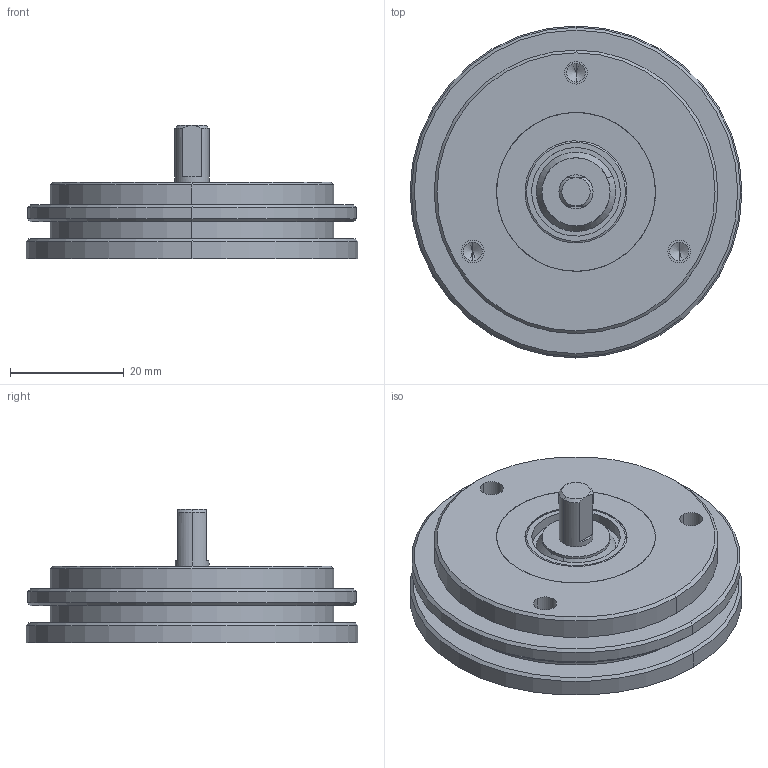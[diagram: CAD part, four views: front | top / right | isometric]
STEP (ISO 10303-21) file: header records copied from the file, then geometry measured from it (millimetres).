
FILE_DESCRIPTION (( 'STEP AP214' ), '1' );
FILE_NAME ('MCD-YA1S-Q5B-N.STEP', '2015-06-09T14:34:49', ( '' ), ( '' ), 'SwSTEP 2.0', 'SolidWorks 2015', '' );
FILE_SCHEMA (( 'AUTOMOTIVE_DESIGN' ));
Length unit declared in the file: millimetre
Products named in the file (1): MCD-YA1S-Q5B-N
Bounding box: 58.5 x 58.5 x 23.5 mm (x, y, z)
Volume: 28396.4 mm3; surface area: 17059 mm2
Topology: 15 solids, 18 shells, 373 faces, 907 edges, 579 vertices
Faces by surface type: plane 139, bspline 87, cylinder 62, cone 43, torus 26, sphere 16
Entity records: 19597 total; most frequent: CARTESIAN_POINT 7303, ORIENTED_EDGE 1710, DIRECTION 1480, EDGE_CURVE 855, VERTEX_POINT 555, AXIS2_PLACEMENT_3D 516, VECTOR 448, LINE 448
